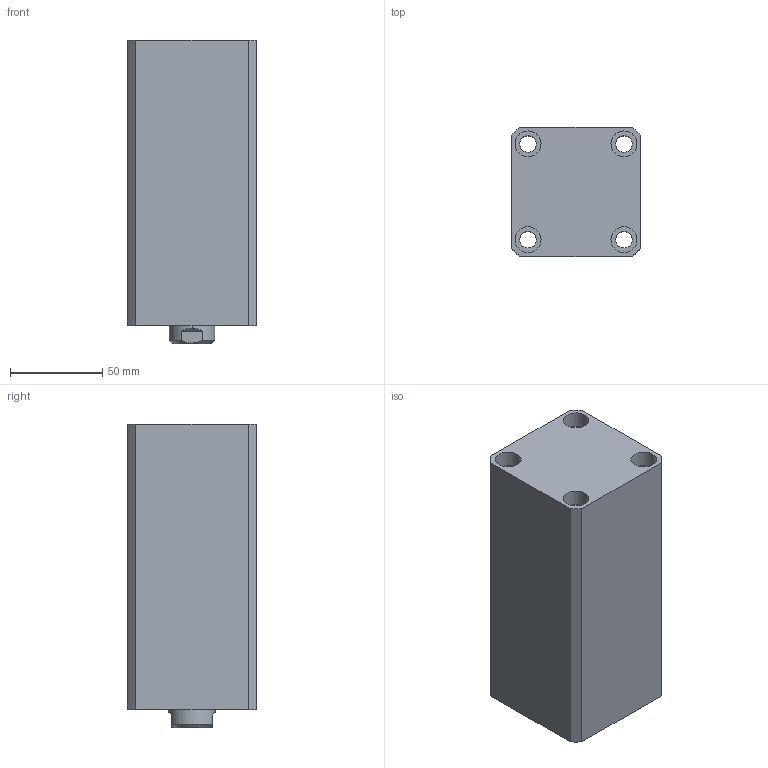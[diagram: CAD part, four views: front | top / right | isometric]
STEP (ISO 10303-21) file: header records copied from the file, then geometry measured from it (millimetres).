
FILE_DESCRIPTION (( 'STEP AP214' ), '1' );
FILE_NAME ('chtb-sd40x100n_asm.STEP', '2018-06-07T08:09:49', ( 'Windows' ), ( 'Microsoft' ), 'SwSTEP 2.0', 'SolidWorks 2015', '' );
FILE_SCHEMA (( 'AUTOMOTIVE_DESIGN' ));
Length unit declared in the file: millimetre
Products named in the file (4): CHTB-SD40QG; CHTB-SD40X100NHSG; CHTB-SD40X100NBT; chtb-sd40x100n_asm
Assembly tree (3 placements, depth 2):
  chtb-sd40x100n_asm
    CHTB-SD40X100NBT
    CHTB-SD40X100NHSG
    CHTB-SD40QG
Bounding box: 70 x 70 x 165 mm (x, y, z)
Volume: 622587.1 mm3; surface area: 118830.8 mm2
Topology: 3 solids, 3 shells, 157 faces, 401 edges, 266 vertices
Faces by surface type: cylinder 80, plane 36, torus 14, bspline 14, cone 13
Entity records: 9961 total; most frequent: CARTESIAN_POINT 6037, ORIENTED_EDGE 790, DIRECTION 768, EDGE_CURVE 395, AXIS2_PLACEMENT_3D 328, VERTEX_POINT 266, EDGE_LOOP 193, CIRCLE 179
